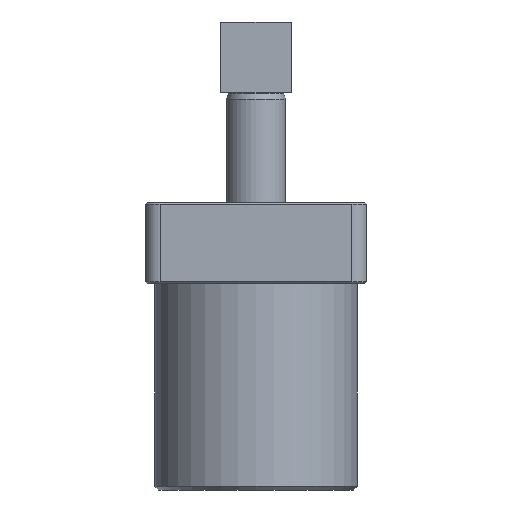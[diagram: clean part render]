
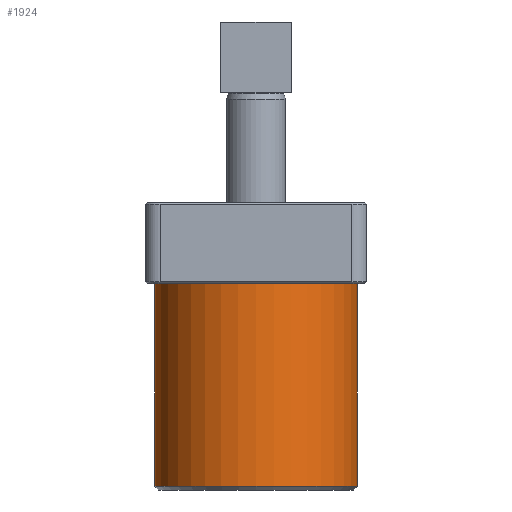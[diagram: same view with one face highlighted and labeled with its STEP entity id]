
A CAD part, left-side view. The second image highlights one B-rep face of the part: STEP entity #1924.
In plain terms, the highlighted cylindrical face has radius 27.5 mm (diameter 55 mm), a full revolution.
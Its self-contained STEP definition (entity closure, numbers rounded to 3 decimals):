
#234=CYLINDRICAL_SURFACE('',#2066,27.5);
#327=ORIENTED_EDGE('',*,*,#704,.T.);
#328=ORIENTED_EDGE('',*,*,#705,.F.);
#704=EDGE_CURVE('',#895,#895,#1028,.T.);
#705=EDGE_CURVE('',#896,#896,#1029,.T.);
#895=VERTEX_POINT('',#2760);
#896=VERTEX_POINT('',#2763);
#1028=CIRCLE('',#2065,27.5);
#1029=CIRCLE('',#2067,27.5);
#1128=EDGE_LOOP('',(#327));
#1129=EDGE_LOOP('',(#328));
#1306=FACE_BOUND('',#1128,.T.);
#1307=FACE_BOUND('',#1129,.T.);
#1924=ADVANCED_FACE('',(#1306,#1307),#234,.T.);
#2065=AXIS2_PLACEMENT_3D('',#2759,#2282,#2283);
#2066=AXIS2_PLACEMENT_3D('',#2761,#2284,#2285);
#2067=AXIS2_PLACEMENT_3D('',#2762,#2286,#2287);
#2282=DIRECTION('',(0.,0.,1.));
#2283=DIRECTION('',(1.,0.,0.));
#2284=DIRECTION('',(0.,0.,1.));
#2285=DIRECTION('',(0.,-1.,0.));
#2286=DIRECTION('',(0.,0.,1.));
#2287=DIRECTION('',(0.,-1.,0.));
#2759=CARTESIAN_POINT('',(0.,31.5,-62.5));
#2760=CARTESIAN_POINT('',(27.5,31.5,-62.5));
#2761=CARTESIAN_POINT('',(0.,31.5,-63.5));
#2762=CARTESIAN_POINT('',(0.,31.5,-7.5));
#2763=CARTESIAN_POINT('',(0.,4.,-7.5));
